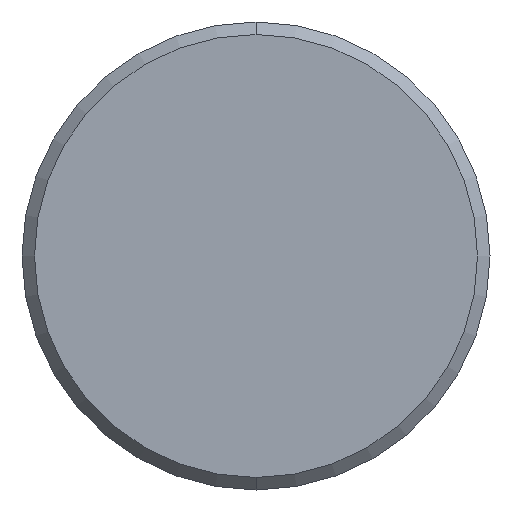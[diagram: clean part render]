
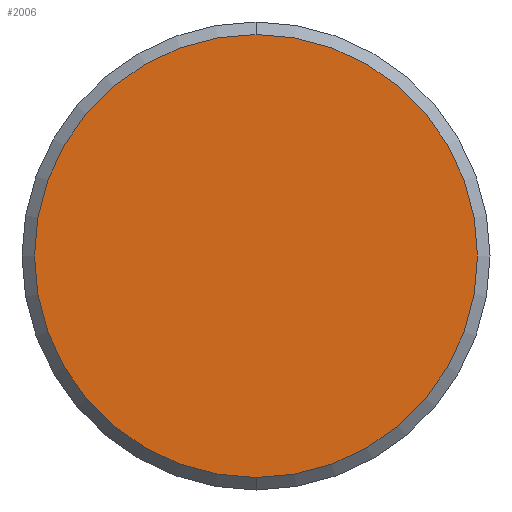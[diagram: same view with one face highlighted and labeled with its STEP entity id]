
A CAD part, front view. The second image highlights one B-rep face of the part: STEP entity #2006.
In plain terms, the highlighted planar face has unit normal (0, -1, 0).
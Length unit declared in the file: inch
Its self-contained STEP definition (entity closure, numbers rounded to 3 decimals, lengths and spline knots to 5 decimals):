
#56 = AXIS2_PLACEMENT_3D ( 'NONE', #2038, #1065, #344 ) ;
#344 = DIRECTION ( 'NONE',  ( 0., 0., 1. ) ) ;
#365 = VERTEX_POINT ( 'NONE', #3148 ) ;
#872 = EDGE_CURVE ( 'NONE', #938, #365, #1195, .T. ) ;
#894 = PLANE ( 'NONE',  #958 ) ;
#905 = CARTESIAN_POINT ( 'NONE',  ( 0., -0.14, 0. ) ) ;
#938 = VERTEX_POINT ( 'NONE', #2979 ) ;
#958 = AXIS2_PLACEMENT_3D ( 'NONE', #1331, #1375, #2826 ) ;
#1008 = FACE_OUTER_BOUND ( 'NONE', #1704, .T. ) ;
#1065 = DIRECTION ( 'NONE',  ( 0., -1., 0. ) ) ;
#1107 = AXIS2_PLACEMENT_3D ( 'NONE', #905, #2873, #2618 ) ;
#1195 = CIRCLE ( 'NONE', #1107, 0.355 ) ;
#1331 = CARTESIAN_POINT ( 'NONE',  ( 0., -0.14, 0. ) ) ;
#1375 = DIRECTION ( 'NONE',  ( 0., 1., 0. ) ) ;
#1390 = ORIENTED_EDGE ( 'NONE', *, *, #1427, .T. ) ;
#1427 = EDGE_CURVE ( 'NONE', #365, #938, #1889, .T. ) ;
#1704 = EDGE_LOOP ( 'NONE', ( #1390, #2615 ) ) ;
#1889 = CIRCLE ( 'NONE', #56, 0.355 ) ;
#2006 = ADVANCED_FACE ( 'NONE', ( #1008 ), #894, .F. ) ;
#2038 = CARTESIAN_POINT ( 'NONE',  ( 0., -0.14, 0. ) ) ;
#2615 = ORIENTED_EDGE ( 'NONE', *, *, #872, .T. ) ;
#2618 = DIRECTION ( 'NONE',  ( 0., 0., 1. ) ) ;
#2826 = DIRECTION ( 'NONE',  ( 0., 0., 1. ) ) ;
#2873 = DIRECTION ( 'NONE',  ( 0., -1., 0. ) ) ;
#2979 = CARTESIAN_POINT ( 'NONE',  ( 0., -0.14, -0.355 ) ) ;
#3148 = CARTESIAN_POINT ( 'NONE',  ( 0., -0.14, 0.355 ) ) ;
